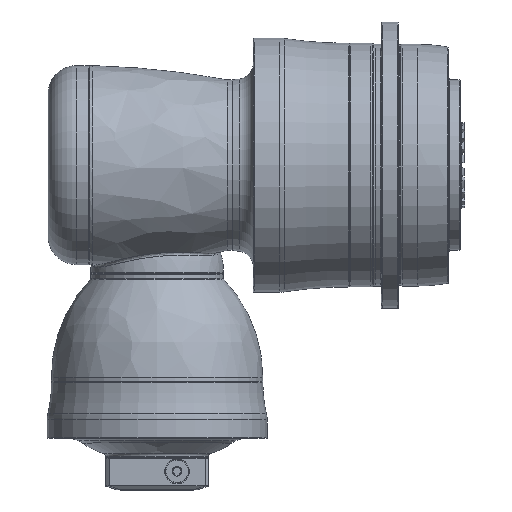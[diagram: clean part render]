
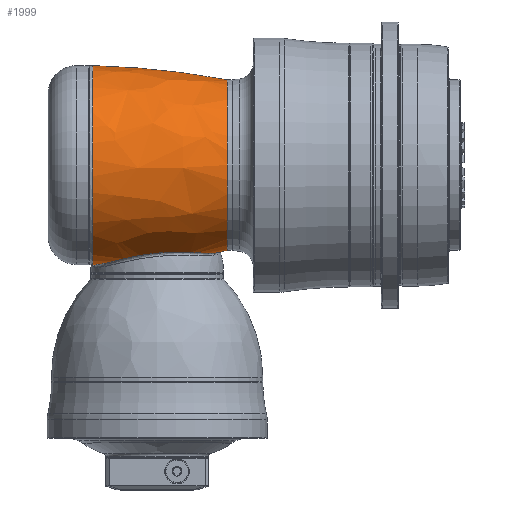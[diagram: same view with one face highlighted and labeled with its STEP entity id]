
A CAD part, top view. The second image highlights one B-rep face of the part: STEP entity #1999.
In plain terms, the highlighted free-form (B-spline) face has degree [3, 3] with [7, 4] control points.
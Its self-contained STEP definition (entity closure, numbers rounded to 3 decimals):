
#334=CARTESIAN_POINT('',(-91.246,794.7,
0.));
#335=DIRECTION('',(0.,0.,-1.));
#336=DIRECTION('',(0.184,-0.983,0.));
#337=AXIS2_PLACEMENT_3D('',#334,#335,#336);
#344=CARTESIAN_POINT('',(-91.246,-794.7,
0.));
#345=DIRECTION('',(0.,0.,1.));
#346=DIRECTION('',(0.184,0.983,0.));
#347=AXIS2_PLACEMENT_3D('',#344,#345,#346);
#488=CARTESIAN_POINT('',(-68.,0.,0.));
#489=DIRECTION('',(1.,0.,0.));
#490=DIRECTION('',(0.,1.,0.));
#491=AXIS2_PLACEMENT_3D('',#488,#489,#490);
#568=CARTESIAN_POINT('',(-68.,-104.809,
-6.332));
#569=CARTESIAN_POINT('',(-67.699,-104.853,
-5.469));
#570=CARTESIAN_POINT('',(-67.058,-104.919,
-3.747));
#571=CARTESIAN_POINT('',(-65.979,-104.949,
-1.182));
#572=CARTESIAN_POINT('',(-64.779,-104.913,1.361));
#573=CARTESIAN_POINT('',(-63.46,-104.81,3.876));
#574=CARTESIAN_POINT('',(-62.018,-104.643,6.358));
#575=CARTESIAN_POINT('',(-60.454,-104.413,8.8));
#576=CARTESIAN_POINT('',(-58.767,-104.123,11.196));
#577=CARTESIAN_POINT('',(-56.955,-103.777,13.54));
#578=CARTESIAN_POINT('',(-55.021,-103.376,15.824));
#579=CARTESIAN_POINT('',(-52.965,-102.926,18.04));
#580=CARTESIAN_POINT('',(-50.789,-102.43,20.179));
#581=CARTESIAN_POINT('',(-48.495,-101.894,22.235));
#582=CARTESIAN_POINT('',(-46.086,-101.324,24.2));
#583=CARTESIAN_POINT('',(-43.566,-100.725,26.067));
#584=CARTESIAN_POINT('',(-40.936,-100.103,27.83));
#585=CARTESIAN_POINT('',(-38.211,-99.467,29.477));
#586=CARTESIAN_POINT('',(-35.393,-98.822,31.003));
#587=CARTESIAN_POINT('',(-32.49,-98.176,32.403));
#588=CARTESIAN_POINT('',(-29.509,-97.536,33.674));
#589=CARTESIAN_POINT('',(-26.456,-96.907,34.81));
#590=CARTESIAN_POINT('',(-23.342,-96.297,35.808));
#591=CARTESIAN_POINT('',(-20.164,-95.709,36.668));
#592=CARTESIAN_POINT('',(-16.952,-95.152,37.381));
#593=CARTESIAN_POINT('',(-13.718,-94.632,37.948));
#594=CARTESIAN_POINT('',(-10.469,-94.152,38.369));
#595=CARTESIAN_POINT('',(-7.204,-93.715,38.644));
#596=CARTESIAN_POINT('',(-3.926,-93.322,38.774));
#597=CARTESIAN_POINT('',(-0.635,-92.973,
38.76));
#598=CARTESIAN_POINT('',(2.671,-92.67,38.602));
#599=CARTESIAN_POINT('',(5.955,-92.416,38.3));
#600=CARTESIAN_POINT('',(9.212,-92.21,37.857));
#601=CARTESIAN_POINT('',(12.433,-92.049,37.276));
#602=CARTESIAN_POINT('',(15.613,-91.933,36.561));
#603=CARTESIAN_POINT('',(18.745,-91.859,35.713));
#604=CARTESIAN_POINT('',(21.823,-91.822,34.735));
#605=CARTESIAN_POINT('',(24.839,-91.821,33.632));
#606=CARTESIAN_POINT('',(27.789,-91.849,32.406));
#607=CARTESIAN_POINT('',(30.666,-91.903,31.061));
#608=CARTESIAN_POINT('',(33.465,-91.977,29.6));
#609=CARTESIAN_POINT('',(36.182,-92.068,28.028));
#610=CARTESIAN_POINT('',(38.811,-92.168,26.348));
#611=CARTESIAN_POINT('',(41.351,-92.273,24.562));
#612=CARTESIAN_POINT('',(43.795,-92.376,22.676));
#613=CARTESIAN_POINT('',(46.137,-92.473,20.696));
#614=CARTESIAN_POINT('',(48.374,-92.557,18.627));
#615=CARTESIAN_POINT('',(50.502,-92.623,16.474));
#616=CARTESIAN_POINT('',(52.52,-92.666,14.239));
#617=CARTESIAN_POINT('',(54.423,-92.679,11.93));
#618=CARTESIAN_POINT('',(56.208,-92.659,9.553));
#619=CARTESIAN_POINT('',(57.868,-92.599,7.119));
#620=CARTESIAN_POINT('',(59.354,-92.501,4.715));
#621=CARTESIAN_POINT('',(60.681,-92.365,2.348));
#622=CARTESIAN_POINT('',(61.476,-92.248,0.78));
#623=CARTESIAN_POINT('',(61.852,-92.183,
0.));
#625=CARTESIAN_POINT('',(74.,0.,0.));
#626=DIRECTION('',(1.,0.,0.));
#627=DIRECTION('',(0.,1.,0.));
#628=AXIS2_PLACEMENT_3D('',#625,#626,#627);
#867=CARTESIAN_POINT('',(74.,90.,0.));
#868=CARTESIAN_POINT('',(-68.,105.,0.));
#869=VERTEX_POINT('',#867);
#870=VERTEX_POINT('',#868);
#871=CARTESIAN_POINT('',(74.,-90.,0.));
#872=VERTEX_POINT('',#871);
#899=VERTEX_POINT('',#568);
#900=VERTEX_POINT('',#623);
#1962=CARTESIAN_POINT('',(-70.858,104.854,
-6.724));
#1963=CARTESIAN_POINT('',(-21.262,103.732,
-6.652));
#1964=CARTESIAN_POINT('',(28.073,98.532,-6.318));
#1965=CARTESIAN_POINT('',(76.809,89.287,-5.726));
#1966=CARTESIAN_POINT('',(-70.858,109.093,59.389));
#1967=CARTESIAN_POINT('',(-21.262,107.927,58.753));
#1968=CARTESIAN_POINT('',(28.073,102.516,55.808));
#1969=CARTESIAN_POINT('',(76.809,92.897,50.572));
#1970=CARTESIAN_POINT('',(-70.858,63.049,107.02));
#1971=CARTESIAN_POINT('',(-21.262,62.374,105.875));
#1972=CARTESIAN_POINT('',(28.073,59.247,100.567));
#1973=CARTESIAN_POINT('',(76.809,53.689,91.132));
#1974=CARTESIAN_POINT('',(-70.858,-3.169,
105.021));
#1975=CARTESIAN_POINT('',(-21.262,-3.136,
103.898));
#1976=CARTESIAN_POINT('',(28.073,-2.978,98.689));
#1977=CARTESIAN_POINT('',(76.809,-2.699,89.43));
#1978=CARTESIAN_POINT('',(-70.858,-69.388,
103.023));
#1979=CARTESIAN_POINT('',(-21.262,-68.645,
101.921));
#1980=CARTESIAN_POINT('',(28.073,-65.204,96.811));
#1981=CARTESIAN_POINT('',(76.809,-59.086,87.728));
#1982=CARTESIAN_POINT('',(-70.858,-112.476,
52.702));
#1983=CARTESIAN_POINT('',(-21.262,-111.273,
52.138));
#1984=CARTESIAN_POINT('',(28.073,-105.694,49.524));
#1985=CARTESIAN_POINT('',(76.809,-95.778,44.878));
#1986=CARTESIAN_POINT('',(-70.858,-104.258,
-13.035));
#1987=CARTESIAN_POINT('',(-21.262,-103.142,
-12.895));
#1988=CARTESIAN_POINT('',(28.073,-97.971,
-12.249));
#1989=CARTESIAN_POINT('',(76.809,-88.779,
-11.099));
#1990=(BOUNDED_SURFACE()B_SPLINE_SURFACE(3,3,((#1962,#1963,#1964,#1965),(#1966,
#1967,#1968,#1969),(#1970,#1971,#1972,#1973),(#1974,#1975,#1976,#1977),(#1978,
#1979,#1980,#1981),(#1982,#1983,#1984,#1985),(#1986,#1987,#1988,#1989)),
.UNSPECIFIED.,.F.,.F.,.F.)B_SPLINE_SURFACE_WITH_KNOTS((4,3,4),(4,4),(0.,1.,
2.),(0.,1.),.UNSPECIFIED.)GEOMETRIC_REPRESENTATION_ITEM()RATIONAL_B_SPLINE_SURFACE(((1.197,1.195,1.195,1.197),(
0.936,0.934,0.934,0.936),(
0.936,0.934,0.934,0.936),(
1.197,1.195,1.195,1.197),(
0.936,0.934,0.934,0.936),(
0.936,0.934,0.934,0.936),(
1.197,1.195,1.195,1.197)))REPRESENTATION_ITEM('')SURFACE());
#1991=ORIENTED_EDGE('',*,*,#1728,.F.);
#1992=ORIENTED_EDGE('',*,*,#1937,.F.);
#1993=ORIENTED_EDGE('',*,*,#1385,.F.);
#1995=ORIENTED_EDGE('',*,*,#1994,.T.);
#1996=ORIENTED_EDGE('',*,*,#1381,.T.);
#1997=EDGE_LOOP('',(#1991,#1992,#1993,#1995,#1996));
#1998=FACE_OUTER_BOUND('',#1997,.F.);
#1999=ADVANCED_FACE('',(#1998),#1990,.T.);
#338=CIRCLE('',#337,900.);
#348=CIRCLE('',#347,900.);
#492=CIRCLE('',#491,105.);
#624=B_SPLINE_CURVE_WITH_KNOTS('',3,(#568,#569,#570,#571,#572,#573,#574,#575,
#576,#577,#578,#579,#580,#581,#582,#583,#584,#585,#586,#587,#588,#589,#590,#591,
#592,#593,#594,#595,#596,#597,#598,#599,#600,#601,#602,#603,#604,#605,#606,#607,
#608,#609,#610,#611,#612,#613,#614,#615,#616,#617,#618,#619,#620,#621,#622,
#623),.UNSPECIFIED.,.F.,.F.,(4,1,1,1,1,1,1,1,1,1,1,1,1,1,1,1,1,1,1,1,1,1,1,1,1,
1,1,1,1,1,1,1,1,1,1,1,1,1,1,1,1,1,1,1,1,1,1,1,1,1,1,1,1,4),(0.,
0.019,0.038,0.057,0.075,
0.094,0.113,0.132,0.151,
0.17,0.189,0.208,0.226,
0.245,0.264,0.283,0.302,
0.321,0.34,0.358,0.377,
0.396,0.415,0.434,0.453,
0.472,0.491,0.509,0.528,
0.547,0.566,0.585,0.604,
0.623,0.642,0.66,0.679,
0.698,0.717,0.736,0.755,
0.774,0.792,0.811,0.83,
0.849,0.868,0.887,0.906,
0.925,0.943,0.962,0.981,1.),
.UNSPECIFIED.);
#629=CIRCLE('',#628,90.);
#1381=EDGE_CURVE('',#872,#900,#338,.T.);
#1385=EDGE_CURVE('',#869,#870,#348,.T.);
#1728=EDGE_CURVE('',#899,#900,#624,.T.);
#1937=EDGE_CURVE('',#870,#899,#492,.T.);
#1994=EDGE_CURVE('',#869,#872,#629,.T.);
